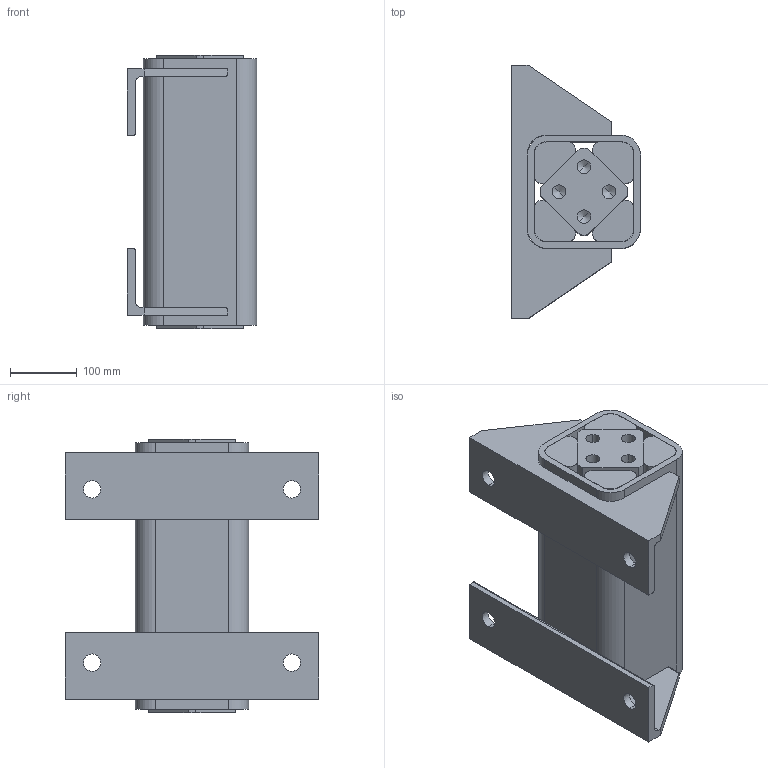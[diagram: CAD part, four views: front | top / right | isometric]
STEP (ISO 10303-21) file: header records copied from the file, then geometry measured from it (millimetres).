
FILE_DESCRIPTION((''),'2;1');
FILE_NAME('D:\ROSTA\Gummifederelemente\3D\DW-A100x400_01101011.stp','2005-02-11T07:04:15',('Administrator'),(''),'Autodesk Inventor 8','Autodesk Inventor 8','');
FILE_SCHEMA(('AUTOMOTIVE_DESIGN { 1 0 10303 214 1 1 1 1 }'));
Length unit declared in the file: millimetre
Products named in the file (5): Baugruppe10; 2.4.4814-006; 2.4.4814-007; 2.4.4814-008; 2.4.4814-009
Assembly tree (8 placements, depth 2):
  Baugruppe10
    2.4.4814-006
    2.4.4814-007
    2.4.4814-008  x2
    2.4.4814-009  x4
Bounding box: 194 x 380 x 410 mm (x, y, z)
Volume: 12040620.6 mm3; surface area: 1300649.2 mm2
Topology: 8 solids, 8 shells, 140 faces, 356 edges, 224 vertices
Faces by surface type: plane 64, cylinder 44, bspline 32
Entity records: 3272 total; most frequent: CARTESIAN_POINT 1013, DIRECTION 448, ORIENTED_EDGE 440, EDGE_CURVE 220, AXIS2_PLACEMENT_3D 155, VERTEX_POINT 144, VECTOR 138, LINE 138
